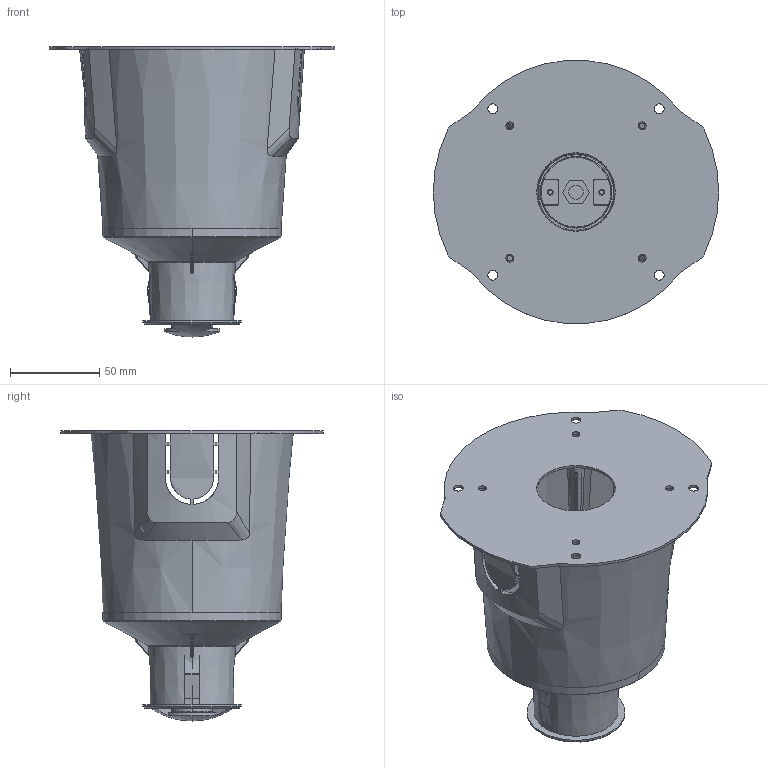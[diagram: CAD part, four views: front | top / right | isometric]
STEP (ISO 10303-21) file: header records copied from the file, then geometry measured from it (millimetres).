
FILE_DESCRIPTION((''),'2;1');
FILE_NAME('A08_ASM','2024-08-28T',('C027'),(''),'CREO PARAMETRIC BY PTC INC, 2014500','CREO PARAMETRIC BY PTC INC, 2014500','');
FILE_SCHEMA(('CONFIG_CONTROL_DESIGN'));
Length unit declared in the file: millimetre
Products named in the file (20): 2YA-_W_I___D___1_ANY_1; YMTDG_2; 2WDR-B01-___P-____55_1_ANY_1; A08_ASM_4_ASM; 2W__1_1_1_1_1_2; POWER-BOX_1_1_1_1_1_2; BACK-COVER_1_1_1_1_1_2; ASM0002_ASM_1_ASM_1_ASM_1_ASM_3_ASM; KAHUANG_1_1_1_1_1_2; PRT0011_1_1_1_1_1_2; 2WA-1_1_1_1_3; BOLI-2_1_1_1_1_1_2; 12A_1_114_1_1_1_1_1_2; PCB-002_1_1_1_1_1_2; MSBR-4_1_1_1_1_1_2; MSBR-6_1_1_1_1_1_2; 00000_1_1_1_1_1_2; ASM0001_ASM_1_ASM_1_ASM_1_ASM_3_ASM; 2E2WP0157_ASM; A08_ASM
Assembly tree (19 placements, depth 5):
  A08_ASM
    A08_ASM_4_ASM
      2YA-_W_I___D___1_ANY_1
      YMTDG_2
      2WDR-B01-___P-____55_1_ANY_1
    2E2WP0157_ASM
      ASM0001_ASM_1_ASM_1_ASM_1_ASM_3_ASM
        2W__1_1_1_1_1_2
        POWER-BOX_1_1_1_1_1_2
        ASM0002_ASM_1_ASM_1_ASM_1_ASM_3_ASM
          BACK-COVER_1_1_1_1_1_2
        KAHUANG_1_1_1_1_1_2
        PRT0011_1_1_1_1_1_2
        2WA-1_1_1_1_3
        BOLI-2_1_1_1_1_1_2
        12A_1_114_1_1_1_1_1_2
        PCB-002_1_1_1_1_1_2
        MSBR-4_1_1_1_1_1_2
        MSBR-6_1_1_1_1_1_2
        00000_1_1_1_1_1_2
Bounding box: 160.03 x 147.5 x 162.68 mm (x, y, z)
Volume: 215861.6 mm3; surface area: 192995.4 mm2
Topology: 15 solids, 15 shells, 1198 faces, 3276 edges, 2138 vertices
Faces by surface type: plane 624, cylinder 301, cone 147, bspline 87, torus 25, sphere 14
Entity records: 49545 total; most frequent: CARTESIAN_POINT 19958, ORIENTED_EDGE 6524, DIRECTION 5604, EDGE_CURVE 3262, AXIS2_PLACEMENT_3D 2151, VERTEX_POINT 2138, EDGE_LOOP 1332, VECTOR 1302
